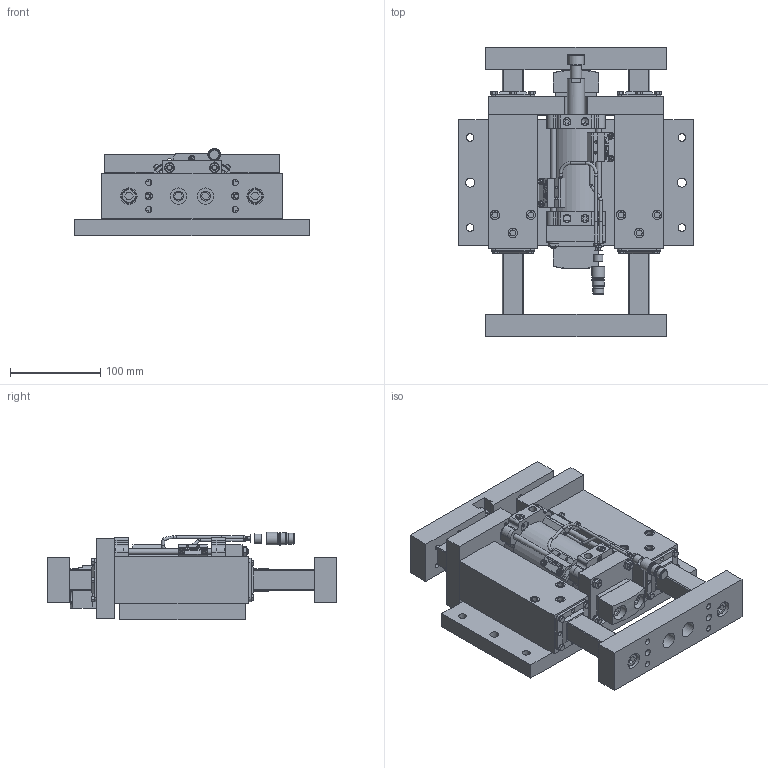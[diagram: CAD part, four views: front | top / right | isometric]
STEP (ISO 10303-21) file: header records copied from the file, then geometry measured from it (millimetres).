
FILE_DESCRIPTION(/* description */ (''),/* implementation_level */ '2;1');
FILE_NAME(/* name */ 'C:\Vault Workspace\CAD\Welker\Shot Pin\DBL24\STANDARD\DB2050B01XL3XXX0000-RET.stp',/* time_stamp */ '2018-03-26T07:26:54-04:00',/* author */ ('KLabrecque'),/* organization */ (''),/* preprocessor_version */ 'ST-DEVELOPER v17',/* originating_system */ 'Autodesk Inventor 2018',/* authorisation */ '');
FILE_SCHEMA (('AUTOMOTIVE_DESIGN { 1 0 10303 214 3 1 1 }'));
Products named in the file (1): DB2L01_Shrinkwrap_1
Bounding box: 260 x 321 x 97.03 mm (x, y, z)
Volume: 2790563.1 mm3; surface area: 662062.1 mm2
Topology: 124 solids, 124 shells, 2547 faces, 6142 edges, 4049 vertices
Faces by surface type: plane 1390, cylinder 647, cone 448, bspline 44, torus 18
Full cylindrical faces by diameter (mm): 0.5 x1, 1.9 x2, 2.459 x4, 2.5 x1, 2.6 x2, 3 x8, 3.175 x17, 3.2 x6, 3.5 x4, 3.734 x16, 4 x2, 4.166 x16, 4.763 x32, 4.917 x12, 5 x2, 5.359 x8, 5.5 x4, 6 x12, 6.35 x2, 6.5 x32, 6.647 x14, 7 x8, 7.95 x4, 8 x28, 8.334 x12, 8.376 x12, 8.5 x12, 8.7 x12, 9.6 x1, 9.728 x1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
Entity records: 78062 total; most frequent: CARTESIAN_POINT 14928, DIRECTION 12737, ORIENTED_EDGE 12166, EDGE_CURVE 6083, AXIS2_PLACEMENT_3D 4754, VERTEX_POINT 4049, LINE 3229, VECTOR 3229
